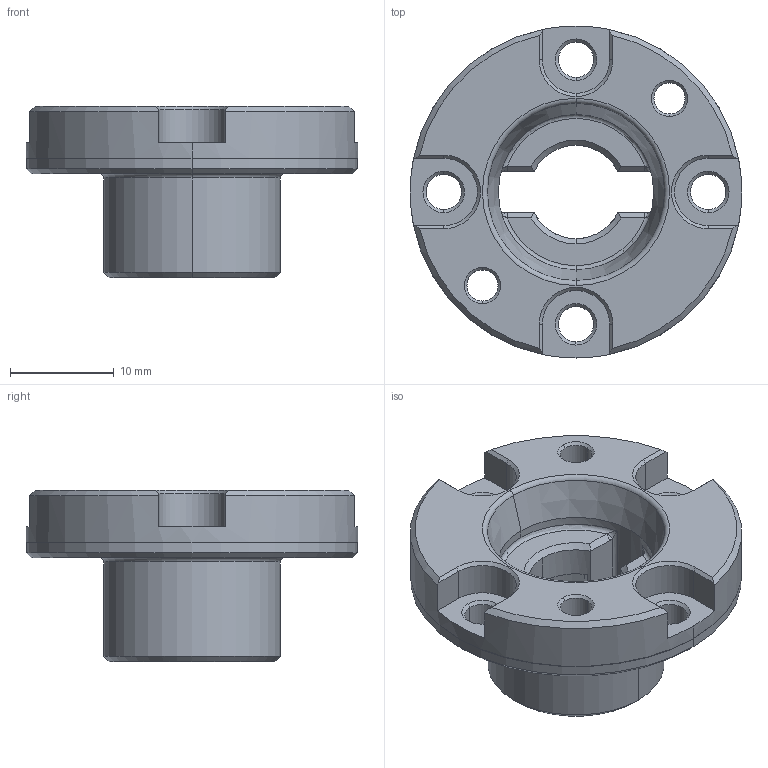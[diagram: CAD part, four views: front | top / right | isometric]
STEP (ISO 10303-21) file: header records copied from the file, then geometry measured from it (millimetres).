
FILE_DESCRIPTION (( 'STEP AP203' ), '1' );
FILE_NAME ('cp727-0840r.STEP', '2021-10-25T23:39:20', ( '' ), ( '' ), 'SwSTEP 2.0', 'SolidWorks 2020', '' );
FILE_SCHEMA (( 'CONFIG_CONTROL_DESIGN' ));
Length unit declared in the file: millimetre
Products named in the file (1): cp727-0840r
Bounding box: 32 x 32 x 16.5 mm (x, y, z)
Volume: 4024.4 mm3; surface area: 3512.8 mm2
Topology: 1 solids, 1 shells, 125 faces, 315 edges, 190 vertices
Faces by surface type: plane 40, cone 38, cylinder 32, bspline 8, torus 7
Entity records: 3931 total; most frequent: CARTESIAN_POINT 861, DIRECTION 638, ORIENTED_EDGE 622, EDGE_CURVE 311, AXIS2_PLACEMENT_3D 253, VERTEX_POINT 190, EDGE_LOOP 141, CIRCLE 135
